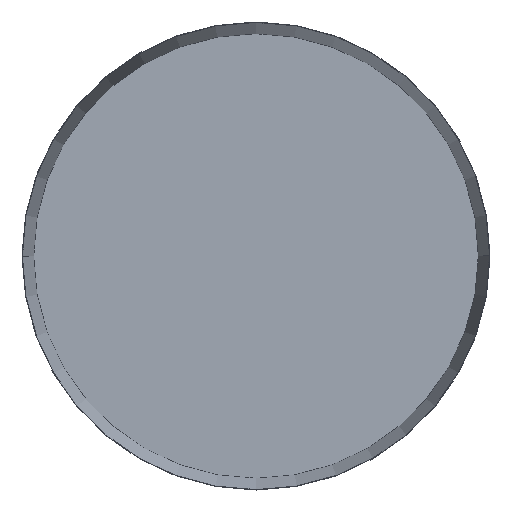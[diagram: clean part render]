
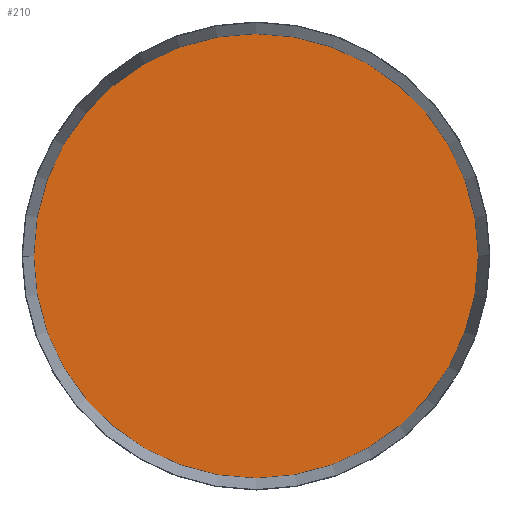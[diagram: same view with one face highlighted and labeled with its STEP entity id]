
A CAD part, front view. The second image highlights one B-rep face of the part: STEP entity #210.
In plain terms, the highlighted planar face has unit normal (0, -1, 0).
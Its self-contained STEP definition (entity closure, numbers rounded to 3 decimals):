
#185=CARTESIAN_POINT('',(400.,17.288,-390.75));
#186=DIRECTION('',(0.,-1.,0.));
#187=DIRECTION('',(1.,0.,0.004));
#188=AXIS2_PLACEMENT_3D('',#185,#186,#187);
#190=CARTESIAN_POINT('',(400.,17.288,0.));
#191=DIRECTION('',(0.,1.,0.));
#192=DIRECTION('',(-0.008,0.,-1.));
#193=AXIS2_PLACEMENT_3D('',#190,#191,#192);
#195=CARTESIAN_POINT('',(397.,17.288,-390.738));
#196=CARTESIAN_POINT('',(403.,17.288,-390.738));
#197=VERTEX_POINT('',#195);
#198=VERTEX_POINT('',#196);
#199=CARTESIAN_POINT('',(400.,17.288,0.));
#200=DIRECTION('',(0.,1.,0.));
#201=DIRECTION('',(1.,0.,0.));
#202=AXIS2_PLACEMENT_3D('',#199,#200,#201);
#203=PLANE('',#202);
#205=ORIENTED_EDGE('',*,*,#204,.T.);
#207=ORIENTED_EDGE('',*,*,#206,.T.);
#208=EDGE_LOOP('',(#205,#207));
#209=FACE_OUTER_BOUND('',#208,.F.);
#189=CIRCLE('',#188,3.);
#194=CIRCLE('',#193,390.75);
#204=EDGE_CURVE('',#198,#197,#189,.T.);
#206=EDGE_CURVE('',#197,#198,#194,.T.);
#210=ADVANCED_FACE('',(#209),#203,.F.);
